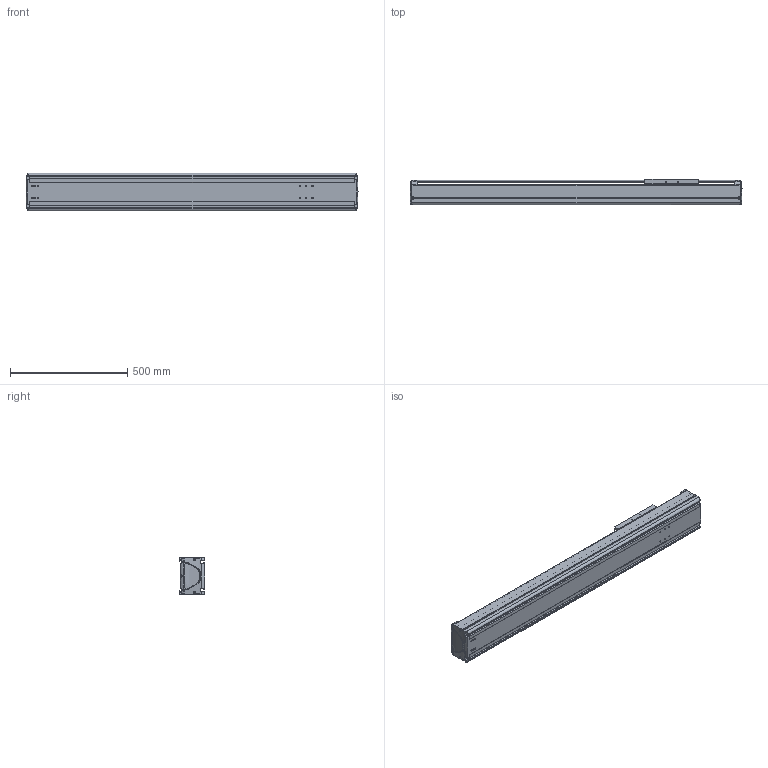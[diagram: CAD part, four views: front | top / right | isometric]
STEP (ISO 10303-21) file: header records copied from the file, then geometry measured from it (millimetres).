
FILE_DESCRIPTION((''),'2;1');
FILE_NAME('BE50G-ST-L_B-95_IGS_PRT','2017-06-18T',(' '),(''),'PRO/ENGINEER BY PARAMETRIC TECHNOLOGY CORPORATION, 2015030','PRO/ENGINEER BY PARAMETRIC TECHNOLOGY CORPORATION, 2015030','');
FILE_SCHEMA(('CONFIG_CONTROL_DESIGN'));
Length unit declared in the file: millimetre
Products named in the file (1): BE50G-ST-L_B-95_IGS_PRT
Bounding box: 1414.98 x 110 x 160 mm (x, y, z)
Volume: 6377981.7 mm3; surface area: 2166870.1 mm2
Topology: 2 solids, 91 shells, 1676 faces, 4466 edges, 2863 vertices
Faces by surface type: cylinder 738, plane 629, bspline 102, torus 87, cone 80, sphere 40
Entity records: 57818 total; most frequent: CARTESIAN_POINT 16599, ORIENTED_EDGE 8508, DIRECTION 8416, EDGE_CURVE 4432, AXIS2_PLACEMENT_3D 3146, VERTEX_POINT 2855, VECTOR 2124, LINE 2124
